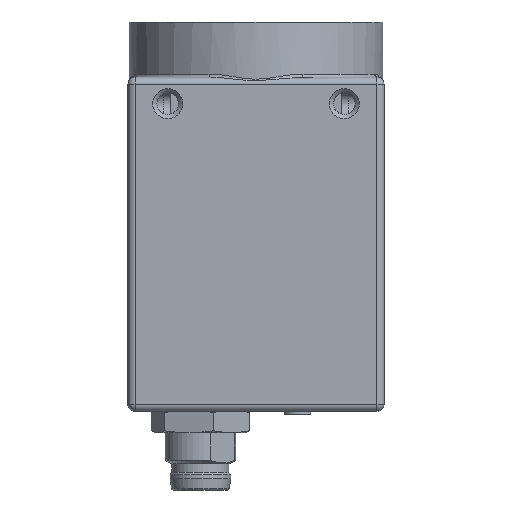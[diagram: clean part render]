
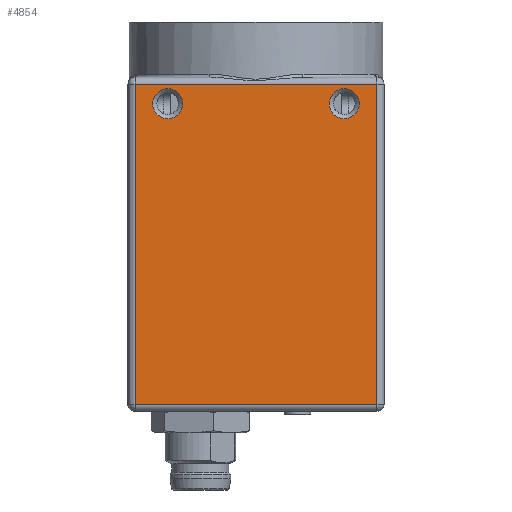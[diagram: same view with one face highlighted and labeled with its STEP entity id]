
A CAD part, left-side view. The second image highlights one B-rep face of the part: STEP entity #4854.
In plain terms, the highlighted planar face has unit normal (-1, 0, 0).
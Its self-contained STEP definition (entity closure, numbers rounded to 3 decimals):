
#4854 = ADVANCED_FACE( '', ( #11240, #11241, #11242 ), #11243, .T. );
#11240 = FACE_BOUND( '', #20719, .T. );
#11241 = FACE_BOUND( '', #20720, .T. );
#11242 = FACE_OUTER_BOUND( '', #20721, .T. );
#11243 = PLANE( '', #20722 );
#20719 = EDGE_LOOP( '', ( #33542 ) );
#20720 = EDGE_LOOP( '', ( #33543 ) );
#20721 = EDGE_LOOP( '', ( #33544, #33545, #33546, #33547 ) );
#20722 = AXIS2_PLACEMENT_3D( '', #33548, #33549, #33550 );
#33542 = ORIENTED_EDGE( '', *, *, #43676, .T. );
#33543 = ORIENTED_EDGE( '', *, *, #43677, .T. );
#33544 = ORIENTED_EDGE( '', *, *, #43310, .T. );
#33545 = ORIENTED_EDGE( '', *, *, #42190, .T. );
#33546 = ORIENTED_EDGE( '', *, *, #40667, .T. );
#33547 = ORIENTED_EDGE( '', *, *, #43678, .T. );
#33548 = CARTESIAN_POINT( '', ( -14.5, -14.5, 12.2 ) );
#33549 = DIRECTION( '', ( -1., 0., 0. ) );
#33550 = DIRECTION( '', ( 0., 0., 1. ) );
#40667 = EDGE_CURVE( '', #45920, #46267, #46269, .T. );
#42190 = EDGE_CURVE( '', #48686, #45920, #48687, .F. );
#43310 = EDGE_CURVE( '', #50360, #48686, #50361, .T. );
#43676 = EDGE_CURVE( '', #50835, #50835, #50836, .T. );
#43677 = EDGE_CURVE( '', #50837, #50837, #50838, .T. );
#43678 = EDGE_CURVE( '', #46267, #50360, #50839, .T. );
#45920 = VERTEX_POINT( '', #53858 );
#46267 = VERTEX_POINT( '', #54583 );
#46269 = LINE( '', #54585, #54586 );
#48686 = VERTEX_POINT( '', #58084 );
#48687 = LINE( '', #58085, #58086 );
#50360 = VERTEX_POINT( '', #60635 );
#50361 = LINE( '', #60636, #60637 );
#50835 = VERTEX_POINT( '', #61326 );
#50836 = CIRCLE( '', #61327, 1.7 );
#50837 = VERTEX_POINT( '', #61328 );
#50838 = CIRCLE( '', #61329, 1.7 );
#50839 = LINE( '', #61330, #61331 );
#53858 = CARTESIAN_POINT( '', ( -14.5, -13.7, 11.4 ) );
#54583 = CARTESIAN_POINT( '', ( -14.5, 13.7, 11.4 ) );
#54585 = CARTESIAN_POINT( '', ( -14.5, 14.5, 11.4 ) );
#54586 = VECTOR( '', #64582, 1000. );
#58084 = CARTESIAN_POINT( '', ( -14.5, -13.7, -24.85 ) );
#58085 = CARTESIAN_POINT( '', ( -14.5, -13.7, 12.2 ) );
#58086 = VECTOR( '', #66417, 1000. );
#60635 = CARTESIAN_POINT( '', ( -14.5, 13.7, -24.85 ) );
#60636 = CARTESIAN_POINT( '', ( -14.5, -14.5, -24.85 ) );
#60637 = VECTOR( '', #67882, 1000. );
#61326 = CARTESIAN_POINT( '', ( -14.5, -8.3, 9.2 ) );
#61327 = AXIS2_PLACEMENT_3D( '', #68254, #68255, #68256 );
#61328 = CARTESIAN_POINT( '', ( -14.5, 11.7, 9.2 ) );
#61329 = AXIS2_PLACEMENT_3D( '', #68257, #68258, #68259 );
#61330 = CARTESIAN_POINT( '', ( -14.5, 13.7, 12.2 ) );
#61331 = VECTOR( '', #68260, 1000. );
#64582 = DIRECTION( '', ( 0., 1., 0. ) );
#66417 = DIRECTION( '', ( 0., 0., -1. ) );
#67882 = DIRECTION( '', ( 0., -1., 0. ) );
#68254 = CARTESIAN_POINT( '', ( -14.5, -10., 9.2 ) );
#68255 = DIRECTION( '', ( 1., 0., 0. ) );
#68256 = DIRECTION( '', ( 0., 1., 0. ) );
#68257 = CARTESIAN_POINT( '', ( -14.5, 10., 9.2 ) );
#68258 = DIRECTION( '', ( 1., 0., 0. ) );
#68259 = DIRECTION( '', ( 0., 1., 0. ) );
#68260 = DIRECTION( '', ( 0., 0., -1. ) );
